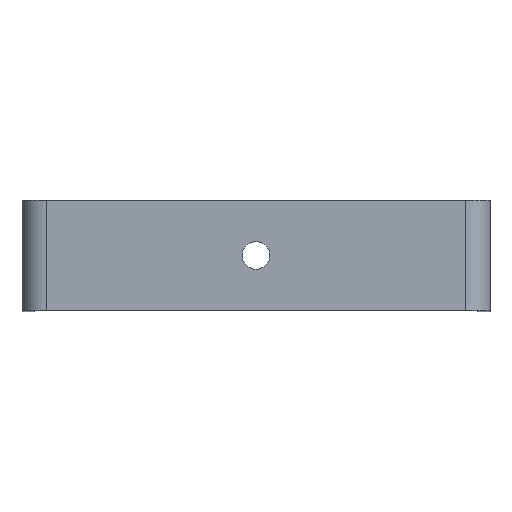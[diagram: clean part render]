
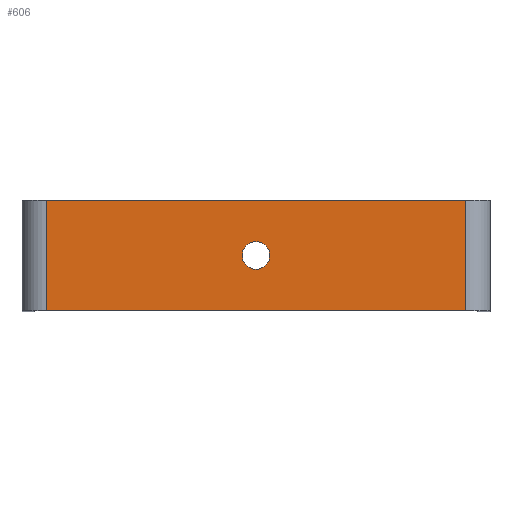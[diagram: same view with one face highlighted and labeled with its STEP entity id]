
A CAD part, top view. The second image highlights one B-rep face of the part: STEP entity #606.
In plain terms, the highlighted planar face has unit normal (0, 0, 1).
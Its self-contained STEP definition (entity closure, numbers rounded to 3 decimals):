
#26=FACE_BOUND('',#122,.T.);
#43=PLANE('',#692);
#76=FACE_OUTER_BOUND('',#121,.T.);
#121=EDGE_LOOP('',(#513,#514,#515,#516));
#122=EDGE_LOOP('',(#517));
#157=LINE('',#983,#204);
#164=LINE('',#1004,#211);
#169=LINE('',#1020,#216);
#171=LINE('',#1023,#218);
#204=VECTOR('',#810,10.);
#211=VECTOR('',#837,10.);
#216=VECTOR('',#860,10.);
#218=VECTOR('',#864,10.);
#220=CIRCLE('',#633,4.5);
#250=VERTEX_POINT('',#872);
#288=VERTEX_POINT('',#980);
#289=VERTEX_POINT('',#982);
#292=VERTEX_POINT('',#1001);
#293=VERTEX_POINT('',#1003);
#296=EDGE_CURVE('',#250,#250,#220,.T.);
#350=EDGE_CURVE('',#289,#288,#157,.T.);
#361=EDGE_CURVE('',#293,#292,#164,.T.);
#369=EDGE_CURVE('',#292,#289,#169,.T.);
#371=EDGE_CURVE('',#288,#293,#171,.T.);
#513=ORIENTED_EDGE('',*,*,#350,.T.);
#514=ORIENTED_EDGE('',*,*,#371,.T.);
#515=ORIENTED_EDGE('',*,*,#361,.T.);
#516=ORIENTED_EDGE('',*,*,#369,.T.);
#517=ORIENTED_EDGE('',*,*,#296,.T.);
#606=ADVANCED_FACE('',(#76,#26),#43,.T.);
#633=AXIS2_PLACEMENT_3D('',#873,#699,#700);
#692=AXIS2_PLACEMENT_3D('',#1022,#862,#863);
#699=DIRECTION('center_axis',(0.,0.,-1.));
#700=DIRECTION('ref_axis',(1.,0.,0.));
#810=DIRECTION('',(0.,1.,0.));
#837=DIRECTION('',(0.,-1.,0.));
#860=DIRECTION('',(1.,0.,0.));
#862=DIRECTION('center_axis',(0.,0.,1.));
#863=DIRECTION('ref_axis',(1.,0.,0.));
#864=DIRECTION('',(-1.,0.,0.));
#872=CARTESIAN_POINT('',(-4.5,0.,4.));
#873=CARTESIAN_POINT('Origin',(0.,0.,4.));
#980=CARTESIAN_POINT('',(68.,18.,4.));
#982=CARTESIAN_POINT('',(68.,-18.,4.));
#983=CARTESIAN_POINT('',(68.,-9.,4.));
#1001=CARTESIAN_POINT('',(-68.,-18.,4.));
#1003=CARTESIAN_POINT('',(-68.,18.,4.));
#1004=CARTESIAN_POINT('',(-68.,9.,4.));
#1020=CARTESIAN_POINT('',(-76.,-18.,4.));
#1022=CARTESIAN_POINT('Origin',(0.,0.,4.));
#1023=CARTESIAN_POINT('',(76.,18.,4.));
